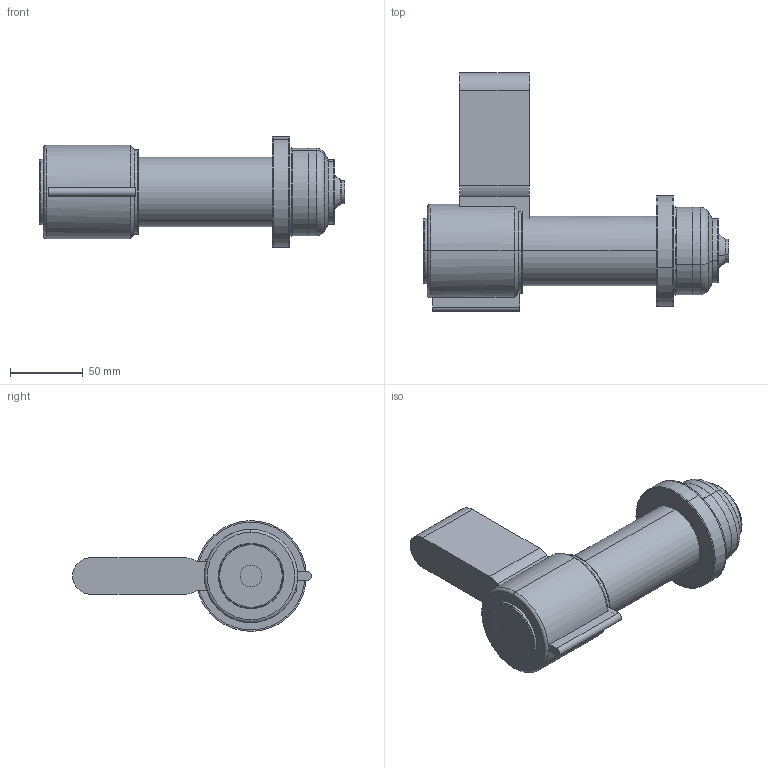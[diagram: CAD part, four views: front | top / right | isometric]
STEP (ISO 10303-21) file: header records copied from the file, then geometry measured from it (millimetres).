
FILE_DESCRIPTION (( 'STEP AP214' ), '1' );
FILE_NAME ('PLS35-165CW-2.0.STEP', '2021-06-21T07:38:46', ( '' ), ( '' ), 'SwSTEP 2.0', 'SolidWorks 2018', '' );
FILE_SCHEMA (( 'AUTOMOTIVE_DESIGN' ));
Length unit declared in the file: millimetre
Products named in the file (6): PLS35-165CW-2.0; join^PLS｢ﾚ-NOZZLE-9; CW-NEW(25,35,45)(35.00 )-9; CC(35)-9; BODY SPRING(35-SPRING)-9; PLSＬ(35)-9
Assembly tree (5 placements, depth 2):
  PLS35-165CW-2.0
    PLSＬ(35)-9
    BODY SPRING(35-SPRING)-9
    CC(35)-9
    CW-NEW(25,35,45)(35.00 )-9
    join^PLS｢ﾚ-NOZZLE-9
Bounding box: 210 x 164 x 75.95 mm (x, y, z)
Volume: 1012721.5 mm3; surface area: 137725.7 mm2
Topology: 5 solids, 5 shells, 336 faces, 761 edges, 461 vertices
Faces by surface type: cylinder 145, torus 68, plane 63, cone 56, sphere 4
Entity records: 10040 total; most frequent: CARTESIAN_POINT 1962, DIRECTION 1870, ORIENTED_EDGE 1510, AXIS2_PLACEMENT_3D 813, EDGE_CURVE 755, CIRCLE 469, VERTEX_POINT 461, EDGE_LOOP 382
